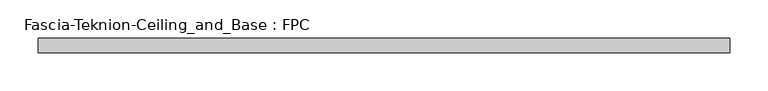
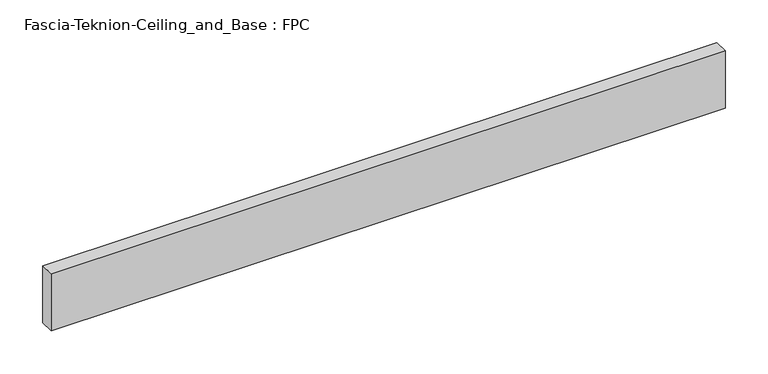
"""IFC4 building model written with IfcOpenShell, lengths in millimetres: proxy geometry, Fascia-Teknion-Ceiling_and_Base : FPC."""

from ifc_helpers import new_model, si_unit, origin, origin_with_axes, place, context, project, spatial, polyline, outline, extrude, source, transform, mapped, element, save


def fascia_teknion_ceiling_and_base_fpc_0fdf7194(model_context):
    return source(origin(), model_context, "Body", "SweptSolid", [
        extrude(outline(polyline([(454.0305563, 0.0), (454.0305563, -19.05), (-454.0305562, -19.05), (-454.0305562, 0.0), (454.0305563, 0.0)])), origin_with_axes(), (0.0, 0.0, 1.0), 81.28),
    ])


if __name__ == "__main__":
    model = new_model("IFC4")
    model_context = context("Model", 3, world=origin())
    ifc_project = project(units=[si_unit("LENGTHUNIT", "METRE", prefix="MILLI")], contexts=[model_context])
    site = spatial("IfcSite", under=ifc_project)
    building = spatial("IfcBuilding", under=site)
    placement = place(None, origin())
    fascia_teknion_ceiling_and_base_fpc_shape = fascia_teknion_ceiling_and_base_fpc_0fdf7194(model_context)
    element("IfcBuildingElementProxy", 1, Name="Fascia-Teknion-Ceiling_and_Base : FPC", ObjectType="Fascia-Teknion-Ceiling_and_Base : FPC", at=placement, inside=building, context=model_context, shape_type="MappedRepresentation", body=[
        mapped(fascia_teknion_ceiling_and_base_fpc_shape, transform((0.0, 0.0, 0.0), x_axis=(1.0, 0.0, 0.0), y_axis=(0.0, 1.0, 0.0), z_axis=(0.0, 0.0, 1.0))),
    ])
    save(model, "model.ifc")
